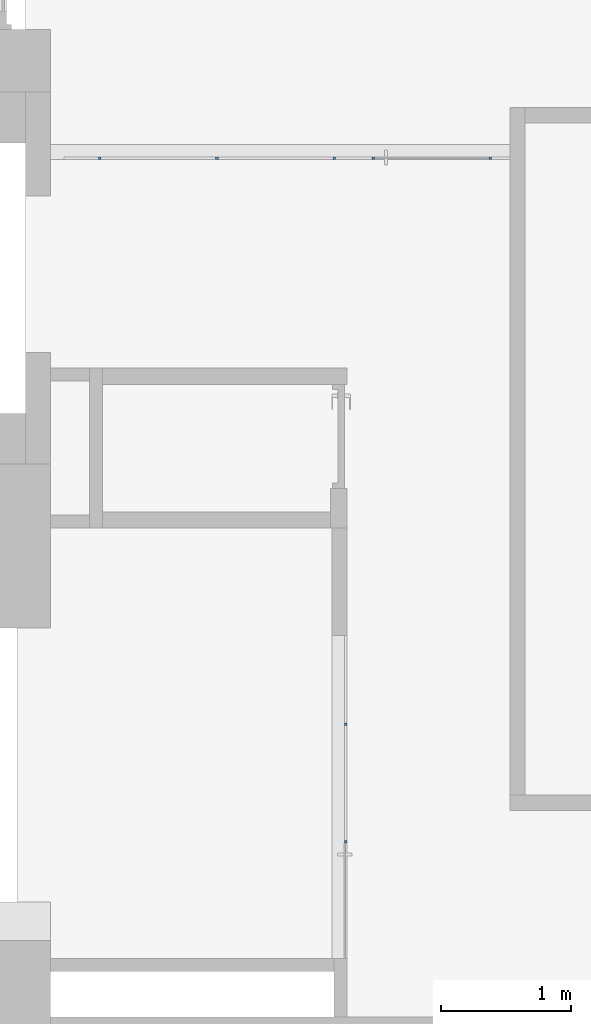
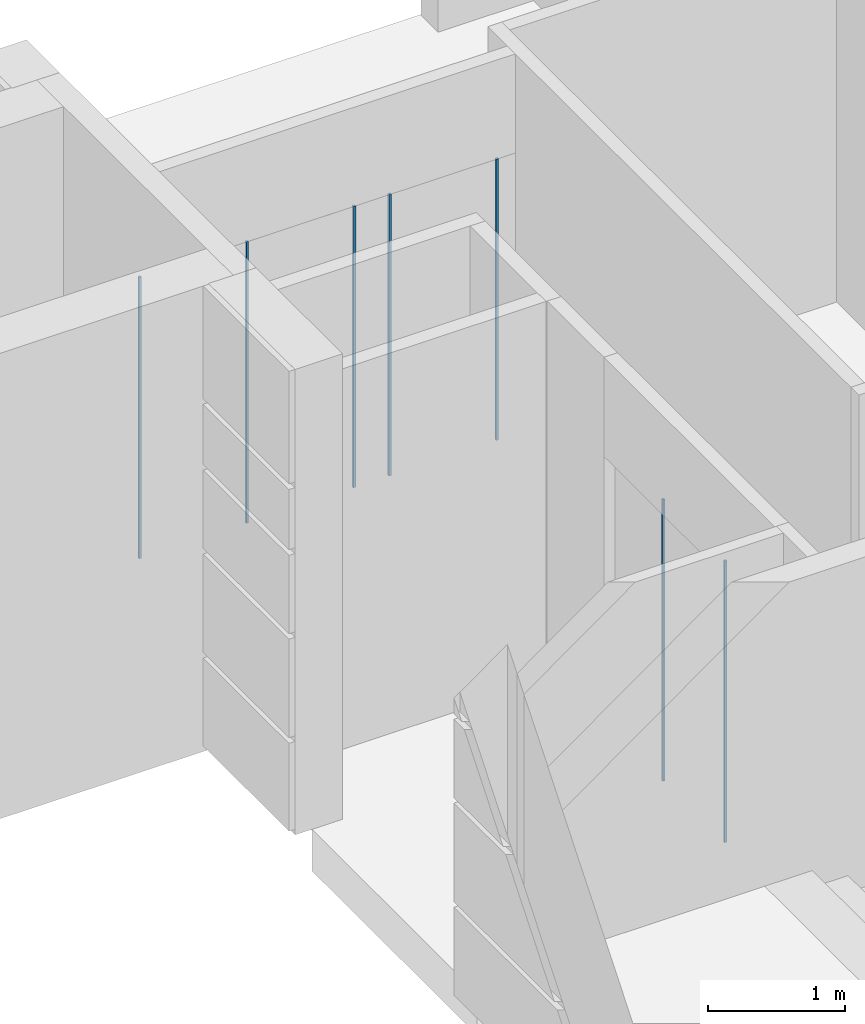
# One storey, part 1 of 15: 7 members, 2 elements without a shape of their own.
"""IFC2X3 building model written with IfcOpenShell, lengths in millimetres."""

from ifc_helpers import new_model, entity, si_unit, converted_unit, derived_unit, direction, frame, origin, origin_2d_with_axis, place, context, subcontext, project, spatial, rectangle, extrude, source, transform, mapped, material, type_object, type_shapes, element, aggregate, save


model = new_model("IFC2X3")

# Units and contexts
model_context = context("Model", 3, precision=0.01, world=origin(), true_north=direction((6.12303176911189e-17, 1.0)))
body_context = subcontext(model_context, "Body", "Model", "MODEL_VIEW")
ifc_project = project(units=[si_unit("LENGTHUNIT", "METRE", prefix="MILLI"), si_unit("AREAUNIT", "SQUARE_METRE"), si_unit("VOLUMEUNIT", "CUBIC_METRE"), converted_unit("PLANEANGLEUNIT", "DEGREE", entity("IfcRatioMeasure", 0.0174532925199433), si_unit("PLANEANGLEUNIT", "RADIAN"), dimensions=[0, 0, 0, 0, 0, 0, 0]), si_unit("MASSUNIT", "GRAM", prefix="KILO"), derived_unit("MASSDENSITYUNIT", [(si_unit("MASSUNIT", "GRAM", prefix="KILO"), 1), (si_unit("LENGTHUNIT", "METRE"), -3)]), si_unit("TIMEUNIT", "SECOND"), si_unit("FREQUENCYUNIT", "HERTZ"), si_unit("THERMODYNAMICTEMPERATUREUNIT", "DEGREE_CELSIUS"), derived_unit("THERMALTRANSMITTANCEUNIT", [(si_unit("MASSUNIT", "GRAM", prefix="KILO"), 1), (si_unit("THERMODYNAMICTEMPERATUREUNIT", "KELVIN"), -1), (si_unit("TIMEUNIT", "SECOND"), -3)]), derived_unit("VOLUMETRICFLOWRATEUNIT", [(si_unit("LENGTHUNIT", "METRE"), 3), (si_unit("TIMEUNIT", "SECOND"), -1)]), si_unit("ELECTRICCURRENTUNIT", "AMPERE"), si_unit("ELECTRICVOLTAGEUNIT", "VOLT"), si_unit("POWERUNIT", "WATT"), si_unit("FORCEUNIT", "NEWTON", prefix="KILO"), si_unit("ILLUMINANCEUNIT", "LUX"), si_unit("LUMINOUSFLUXUNIT", "LUMEN"), si_unit("LUMINOUSINTENSITYUNIT", "CANDELA"), derived_unit("USERDEFINED", [(si_unit("MASSUNIT", "GRAM", prefix="KILO"), -1), (si_unit("LENGTHUNIT", "METRE"), -2), (si_unit("TIMEUNIT", "SECOND"), 3), (si_unit("LUMINOUSFLUXUNIT", "LUMEN"), 1)]), derived_unit("LINEARVELOCITYUNIT", [(si_unit("LENGTHUNIT", "METRE"), 1), (si_unit("TIMEUNIT", "SECOND"), -1)]), si_unit("PRESSUREUNIT", "PASCAL"), derived_unit("USERDEFINED", [(si_unit("LENGTHUNIT", "METRE"), -2), (si_unit("MASSUNIT", "GRAM", prefix="KILO"), 1), (si_unit("TIMEUNIT", "SECOND"), -2)])], contexts=[model_context])

# Site, building, storey
site_placement = place(None, frame((-151.875543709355, 2715.0, 0.0)))
site = spatial("IfcSite", under=ifc_project, at=site_placement, Name="Surface", CompositionType="ELEMENT")
building_placement = place(site_placement, origin())
building = spatial("IfcBuilding", under=site, at=building_placement, CompositionType="ELEMENT")
storey_placement = place(building_placement, frame((0.0, 0.0, 7670.0)))
storey = spatial("IfcBuildingStorey", under=building, at=storey_placement, Name="uus 3 korrus", CompositionType="ELEMENT", Elevation=7670.00000000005)

# Curtain wall, members
curtain_wall_type_1 = type_object("IfcCurtainWallType", Name="Curtain Wall:Klaassein KLS-23", PredefinedType="NOTDEFINED")
curtain_wall_1_placement = place(storey_placement, frame((0.0, 0.0, -7670.0)))
curtain_wall_1 = element("IfcCurtainWall", 1, at=curtain_wall_1_placement, inside=storey, type_object=curtain_wall_type_1, Name="Curtain Wall:Klaassein KLS-23", ObjectType="Curtain Wall:Klaassein KLS-23")
ifc_material = material(Name="__Uks_hele tamm")
member_type = type_object("IfcMemberType", Name="20 x 20mm", PredefinedType="MEMBER")
shared_shape = source(origin(), body_context, "Body", "SweptSolid", [
    extrude(rectangle(XDim=20.0, YDim=20.0, at=origin_2d_with_axis()), frame((0.0, 0.0, -2500.0), z_axis=(0.0, 0.0, 1.0), x_axis=(0.0, -1.0, 0.0)), (0.0, 0.0, 1.0), 2500.00000000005),
])
type_shapes(member_type, [shared_shape])
member_1_placement = place(storey_placement, frame((35381.6162681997, 21619.7725567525, 0.0), z_axis=(0.0, 0.0, -1.0), x_axis=(-1.0, 0.0, 0.0)))
member_1 = element("IfcMember", 2, at=member_1_placement, type_object=member_type, material=ifc_material, Name="Rectangular Mullion:20 x 20mm", ObjectType="20 x 20mm", context=body_context, shape_type="MappedRepresentation", body=[
    mapped(shared_shape, transform((0.0, 0.0, 0.0), scale=1.0)),
])
member_2_placement = place(storey_placement, frame((34481.6162681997, 21619.7725567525, 0.0), z_axis=(0.0, 0.0, -1.0), x_axis=(-1.0, 0.0, 0.0)))
member_2 = element("IfcMember", 3, at=member_2_placement, type_object=member_type, material=ifc_material, Name="Rectangular Mullion:20 x 20mm", ObjectType="20 x 20mm", context=body_context, shape_type="MappedRepresentation", body=[
    mapped(shared_shape, transform((0.0, 0.0, 0.0), scale=1.0)),
])
member_3_placement = place(storey_placement, frame((34181.6162681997, 21619.7725567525, 0.0), z_axis=(0.0, 0.0, -1.0), x_axis=(-1.0, 0.0, 0.0)))
member_3 = element("IfcMember", 4, at=member_3_placement, type_object=member_type, material=ifc_material, Name="Rectangular Mullion:20 x 20mm", ObjectType="20 x 20mm", context=body_context, shape_type="MappedRepresentation", body=[
    mapped(shared_shape, transform((0.0, 0.0, 0.0), scale=1.0)),
])
member_4_placement = place(storey_placement, frame((33281.6162681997, 21619.7725567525, 0.0), z_axis=(0.0, 0.0, -1.0), x_axis=(-1.0, 0.0, 0.0)))
member_4 = element("IfcMember", 5, at=member_4_placement, type_object=member_type, material=ifc_material, Name="Rectangular Mullion:20 x 20mm", ObjectType="20 x 20mm", context=body_context, shape_type="MappedRepresentation", body=[
    mapped(shared_shape, transform((0.0, 0.0, 0.0), scale=1.0)),
])
member_5_placement = place(storey_placement, frame((32381.6162681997, 21619.7725567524, 0.0), z_axis=(0.0, 0.0, -1.0), x_axis=(-1.0, 0.0, 0.0)))
member_5 = element("IfcMember", 6, at=member_5_placement, type_object=member_type, material=ifc_material, Name="Rectangular Mullion:20 x 20mm", ObjectType="20 x 20mm", context=body_context, shape_type="MappedRepresentation", body=[
    mapped(shared_shape, transform((0.0, 0.0, 0.0), scale=1.0)),
])
aggregate(curtain_wall_1, [member_1, member_2, member_3, member_4, member_5])

curtain_wall_type_2 = type_object("IfcCurtainWallType", Name="Curtain Wall:Klaassein KLS-12", PredefinedType="NOTDEFINED")
curtain_wall_2_placement = place(storey_placement, frame((0.0, 0.0, -7670.0)))
curtain_wall_2 = element("IfcCurtainWall", 7, at=curtain_wall_2_placement, inside=storey, type_object=curtain_wall_type_2, Name="Curtain Wall:Klaassein KLS-12", ObjectType="Curtain Wall:Klaassein KLS-12")
member_6_placement = place(storey_placement, frame((34270.014162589, 16370.0, 0.0), z_axis=(0.0, 0.0, -1.0), x_axis=(0.0, 1.0, 0.0)))
member_6 = element("IfcMember", 8, at=member_6_placement, type_object=member_type, material=ifc_material, Name="Rectangular Mullion:20 x 20mm", ObjectType="20 x 20mm", context=body_context, shape_type="MappedRepresentation", body=[
    mapped(shared_shape, transform((0.0, 0.0, 0.0), scale=1.0)),
])
member_7_placement = place(storey_placement, frame((34270.014162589, 17270.0, 0.0), z_axis=(0.0, 0.0, -1.0), x_axis=(0.0, 1.0, 0.0)))
member_7 = element("IfcMember", 9, at=member_7_placement, type_object=member_type, material=ifc_material, Name="Rectangular Mullion:20 x 20mm", ObjectType="20 x 20mm", context=body_context, shape_type="MappedRepresentation", body=[
    mapped(shared_shape, transform((0.0, 0.0, 0.0), scale=1.0)),
])
aggregate(curtain_wall_2, [member_6, member_7])

save(model, "model.ifc")
